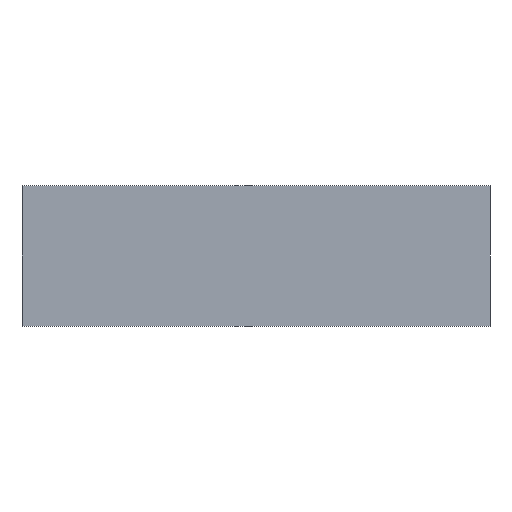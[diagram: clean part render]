
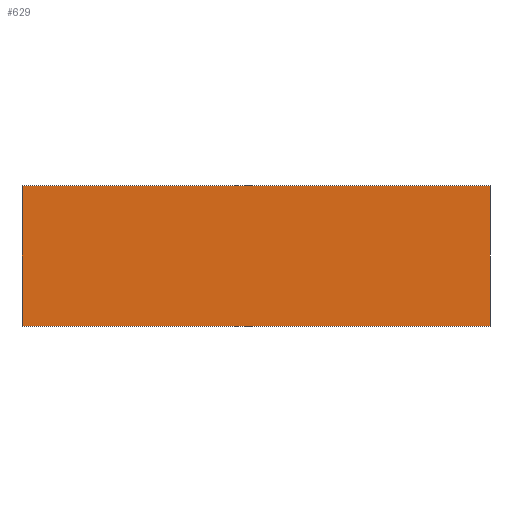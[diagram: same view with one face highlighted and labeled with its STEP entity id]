
A CAD part, front view. The second image highlights one B-rep face of the part: STEP entity #629.
In plain terms, the highlighted planar face has unit normal (0, -1, 0).
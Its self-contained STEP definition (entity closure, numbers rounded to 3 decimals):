
#76=ORIENTED_EDGE('',*,*,#246,.T.);
#77=ORIENTED_EDGE('',*,*,#247,.T.);
#78=ORIENTED_EDGE('',*,*,#248,.F.);
#79=ORIENTED_EDGE('',*,*,#249,.F.);
#246=EDGE_CURVE('',#323,#327,#396,.T.);
#247=EDGE_CURVE('',#327,#328,#397,.T.);
#248=EDGE_CURVE('',#329,#328,#398,.T.);
#249=EDGE_CURVE('',#323,#329,#399,.T.);
#323=VERTEX_POINT('',#928);
#327=VERTEX_POINT('',#938);
#328=VERTEX_POINT('',#942);
#329=VERTEX_POINT('',#944);
#396=LINE('',#939,#480);
#397=LINE('',#941,#481);
#398=LINE('',#943,#482);
#399=LINE('',#945,#483);
#480=VECTOR('',#760,1000.);
#481=VECTOR('',#763,1000.);
#482=VECTOR('',#764,1000.);
#483=VECTOR('',#765,1000.);
#536=EDGE_LOOP('',(#76,#77,#78,#79));
#568=FACE_BOUND('',#536,.T.);
#600=PLANE('',#673);
#629=ADVANCED_FACE('',(#568),#600,.F.);
#673=AXIS2_PLACEMENT_3D('',#940,#761,#762);
#760=DIRECTION('',(0.,0.,-1.));
#761=DIRECTION('',(0.,1.,0.));
#762=DIRECTION('',(-1.,0.,0.));
#763=DIRECTION('',(1.,0.,0.));
#764=DIRECTION('',(0.,0.,-1.));
#765=DIRECTION('',(1.,0.,0.));
#928=CARTESIAN_POINT('',(-50.,0.,15.));
#938=CARTESIAN_POINT('',(-50.,0.,-15.));
#939=CARTESIAN_POINT('',(-50.,0.,15.));
#940=CARTESIAN_POINT('',(-50.,0.,15.));
#941=CARTESIAN_POINT('',(-50.,0.,-15.));
#942=CARTESIAN_POINT('',(50.,0.,-15.));
#943=CARTESIAN_POINT('',(50.,0.,15.));
#944=CARTESIAN_POINT('',(50.,0.,15.));
#945=CARTESIAN_POINT('',(-50.,0.,15.));
